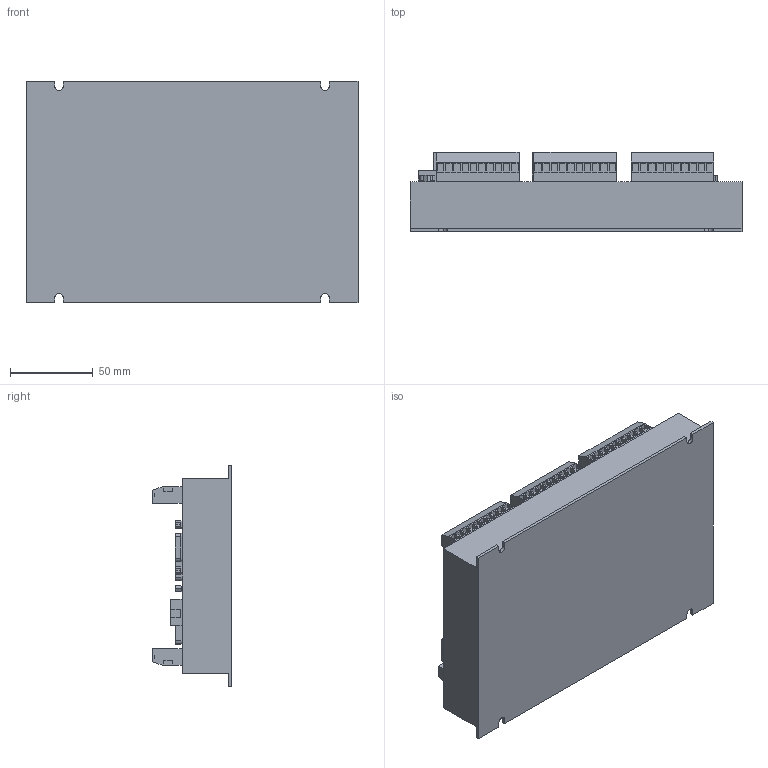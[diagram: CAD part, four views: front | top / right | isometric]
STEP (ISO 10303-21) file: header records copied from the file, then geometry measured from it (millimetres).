
FILE_DESCRIPTION (( 'STEP AP214' ), '1' );
FILE_NAME ('ECI2400.STEP', '2018-08-24T08:24:08', ( 'Microsoft' ), ( ' ' ), 'SwSTEP 2.0', 'SolidWorks 2014', '' );
FILE_SCHEMA (( 'AUTOMOTIVE_DESIGN' ));
Length unit declared in the file: millimetre
Products named in the file (9): 厙諳-傻; 三连灯; 傷赽-湮-5; 傷赽-湮-10; 腑; 9渀-2齬-鼠芛; 15渀-3齬-譫芛; ECI2000-俋褲; ECI2400
Assembly tree (17 placements, depth 3):
  ECI2400
    ECI2000-俋褲
    15渀-3齬-譫芛  x4
    9渀-2齬-鼠芛
    腑
    傷赽-湮-10  x4
    傷赽-湮-5
    三连灯
      腑  x3
    厙諳-傻
Bounding box: 201 x 48 x 134 mm (x, y, z)
Volume: 756564 mm3; surface area: 95412.3 mm2
Topology: 75 solids, 75 shells, 2384 faces, 6201 edges, 4130 vertices
Faces by surface type: plane 1696, bspline 388, cylinder 292, sphere 8
Entity records: 71040 total; most frequent: CARTESIAN_POINT 27503, ORIENTED_EDGE 9442, DIRECTION 6999, EDGE_CURVE 4721, VECTOR 3665, LINE 3665, VERTEX_POINT 3147, EDGE_LOOP 1828
